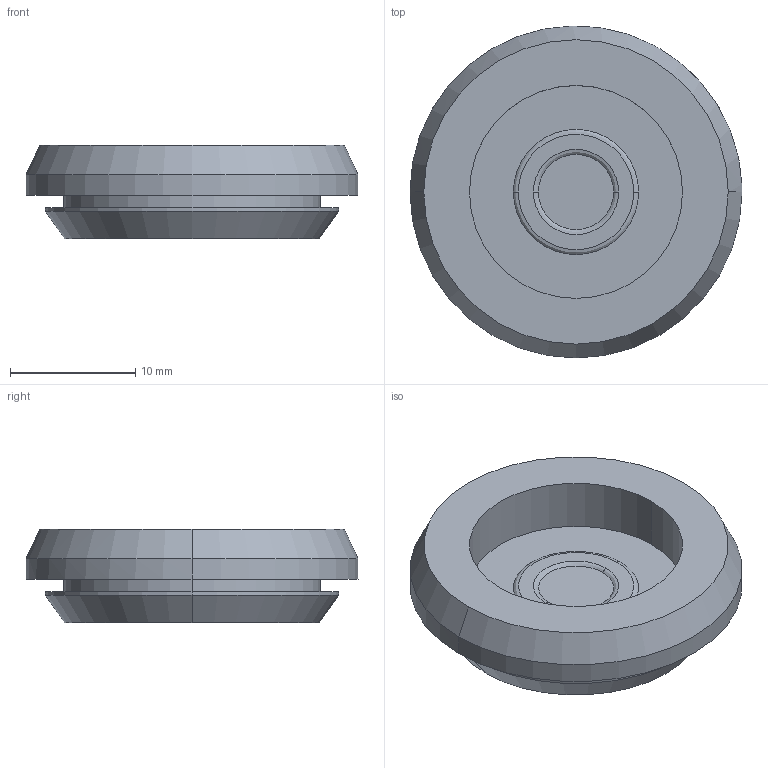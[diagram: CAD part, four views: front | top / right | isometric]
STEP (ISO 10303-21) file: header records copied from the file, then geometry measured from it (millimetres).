
FILE_DESCRIPTION(('CAx-IF Rec.Pracs.---Model Styling and Organization---1.2---2011-12-15','CAx-IF Rec.Pracs.---Geometric and Assembly Validation Properties---4.1---2014-06-16','CAx-IF Rec.Pracs.---PMI Polyline Presentation---2.0---2013-05-24'),'2;1');
FILE_NAME('01Z-Y2W-07.stp','2020-02-14T07:24:24+01:00',(''),(''),'STEP Interface 4.3 by CT CoreTechnologie','3D_Evolution4.3 by CT CoreTechnologie','');
FILE_SCHEMA(('AP203_CONFIGURATION_CONTROLLED_3D_DESIGN_OF_MECHANICAL_PARTS_AND_ASSEMBLIES_MIM_LF'));
Length unit declared in the file: millimetre
Products named in the file (1): 01Z-Y2W-07
Bounding box: 26.5 x 26.5 x 7.5 mm (x, y, z)
Volume: 1974.9 mm3; surface area: 2067.5 mm2
Topology: 1 solids, 1 shells, 32 faces, 76 edges, 54 vertices
Faces by surface type: bspline 12, plane 10, cylinder 10
Entity records: 1424 total; most frequent: CARTESIAN_POINT 371, DIRECTION 166, ORIENTED_EDGE 152, EDGE_CURVE 76, AXIS2_PLACEMENT_3D 69, VERTEX_POINT 54, CIRCLE 48, EDGE_LOOP 40
